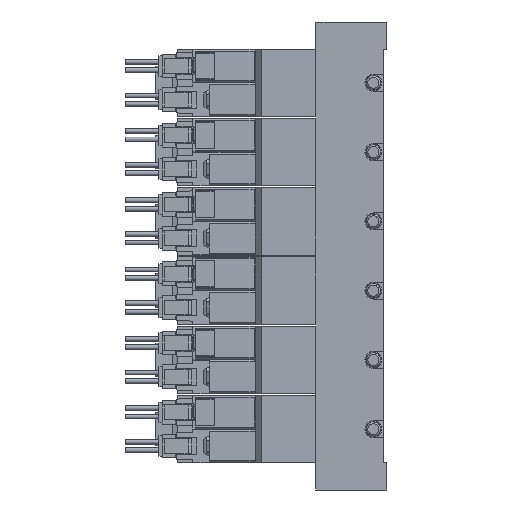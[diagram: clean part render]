
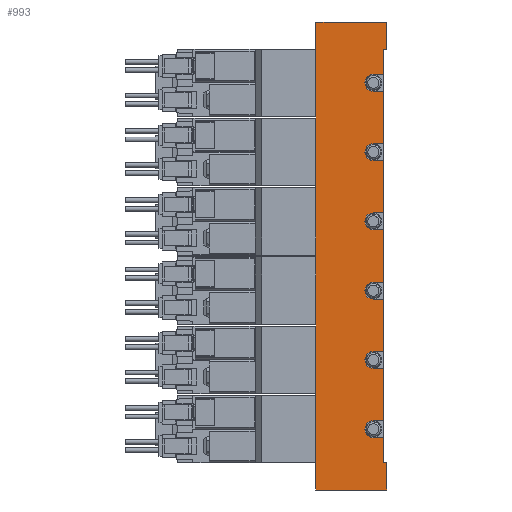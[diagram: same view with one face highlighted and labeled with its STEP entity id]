
A CAD part, left-side view. The second image highlights one B-rep face of the part: STEP entity #993.
In plain terms, the highlighted planar face has unit normal (-1, 0, 0) as drawn and (1, 0, 0) by its records, which use the part's own axes.
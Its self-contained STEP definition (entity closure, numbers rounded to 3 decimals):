
#993=ADVANCED_FACE('',(#2117),#2118,.F.);
#2117=FACE_OUTER_BOUND('',#3242,.T.);
#2118=PLANE('',#3243);
#3242=EDGE_LOOP('',(#7032,#7033,#7034,#7035,#7036,#7037,#7038,#7039,#7040,#7041,#7042,#7043,#7044,#7045,#7046,#7047,#7048,#7049,#7050,#7051,#7052,#7053,#7054,#7055,#7056,#7057,#7058,#7059,#7060,#7061,#7062,#7063));
#3243=AXIS2_PLACEMENT_3D('',#7064,#7065,#7066);
#7032=ORIENTED_EDGE('',*,*,#8250,.T.);
#7033=ORIENTED_EDGE('',*,*,#8092,.T.);
#7034=ORIENTED_EDGE('',*,*,#8156,.F.);
#7035=ORIENTED_EDGE('',*,*,#8101,.F.);
#7036=ORIENTED_EDGE('',*,*,#8247,.T.);
#7037=ORIENTED_EDGE('',*,*,#8254,.T.);
#7038=ORIENTED_EDGE('',*,*,#8198,.T.);
#7039=ORIENTED_EDGE('',*,*,#8050,.F.);
#7040=ORIENTED_EDGE('',*,*,#8245,.F.);
#7041=ORIENTED_EDGE('',*,*,#8115,.F.);
#7042=ORIENTED_EDGE('',*,*,#8197,.T.);
#7043=ORIENTED_EDGE('',*,*,#8160,.F.);
#7044=ORIENTED_EDGE('',*,*,#8204,.F.);
#7045=ORIENTED_EDGE('',*,*,#8176,.F.);
#7046=ORIENTED_EDGE('',*,*,#8195,.T.);
#7047=ORIENTED_EDGE('',*,*,#8239,.F.);
#7048=ORIENTED_EDGE('',*,*,#8226,.F.);
#7049=ORIENTED_EDGE('',*,*,#8201,.F.);
#7050=ORIENTED_EDGE('',*,*,#8192,.T.);
#7051=ORIENTED_EDGE('',*,*,#8137,.F.);
#7052=ORIENTED_EDGE('',*,*,#8181,.F.);
#7053=ORIENTED_EDGE('',*,*,#8253,.F.);
#7054=ORIENTED_EDGE('',*,*,#8189,.T.);
#7055=ORIENTED_EDGE('',*,*,#8132,.F.);
#7056=ORIENTED_EDGE('',*,*,#8251,.F.);
#7057=ORIENTED_EDGE('',*,*,#8144,.F.);
#7058=ORIENTED_EDGE('',*,*,#8187,.T.);
#7059=ORIENTED_EDGE('',*,*,#8211,.F.);
#7060=ORIENTED_EDGE('',*,*,#8105,.F.);
#7061=ORIENTED_EDGE('',*,*,#8224,.F.);
#7062=ORIENTED_EDGE('',*,*,#8184,.T.);
#7063=ORIENTED_EDGE('',*,*,#8214,.T.);
#7064=CARTESIAN_POINT('',(17.5,1.0,69.25));
#7065=DIRECTION('',(-1.0,0.0,0.0));
#7066=DIRECTION('',(0.0,0.0,1.0));
#8050=EDGE_CURVE('',#9894,#9895,#9896,.T.);
#8092=EDGE_CURVE('',#9973,#9974,#9975,.T.);
#8101=EDGE_CURVE('',#9989,#9991,#9992,.T.);
#8105=EDGE_CURVE('',#9997,#9999,#10000,.T.);
#8115=EDGE_CURVE('',#10016,#10017,#10018,.T.);
#8132=EDGE_CURVE('',#10049,#10050,#10051,.T.);
#8137=EDGE_CURVE('',#10059,#10060,#10061,.T.);
#8144=EDGE_CURVE('',#10072,#10073,#10074,.T.);
#8156=EDGE_CURVE('',#9991,#9974,#10095,.T.);
#8160=EDGE_CURVE('',#10102,#10103,#10104,.T.);
#8176=EDGE_CURVE('',#10126,#10127,#10128,.T.);
#8181=EDGE_CURVE('',#10133,#10059,#10135,.T.);
#8184=EDGE_CURVE('',#10141,#10138,#10142,.T.);
#8187=EDGE_CURVE('',#10072,#10144,#10146,.T.);
#8189=EDGE_CURVE('',#10148,#10050,#10149,.T.);
#8192=EDGE_CURVE('',#10153,#10060,#10154,.T.);
#8195=EDGE_CURVE('',#10126,#10156,#10158,.T.);
#8197=EDGE_CURVE('',#10016,#10103,#10160,.T.);
#8198=EDGE_CURVE('',#10161,#9895,#10162,.T.);
#8201=EDGE_CURVE('',#10153,#10166,#10167,.T.);
#8204=EDGE_CURVE('',#10127,#10102,#10171,.T.);
#8211=EDGE_CURVE('',#9999,#10144,#10181,.T.);
#8214=EDGE_CURVE('',#10138,#10183,#10185,.T.);
#8224=EDGE_CURVE('',#10141,#9997,#10201,.T.);
#8226=EDGE_CURVE('',#10166,#10203,#10204,.T.);
#8239=EDGE_CURVE('',#10203,#10156,#10224,.T.);
#8245=EDGE_CURVE('',#10017,#9894,#10232,.T.);
#8247=EDGE_CURVE('',#9989,#10233,#10234,.T.);
#8250=EDGE_CURVE('',#10183,#9973,#10238,.T.);
#8251=EDGE_CURVE('',#10073,#10049,#10239,.T.);
#8253=EDGE_CURVE('',#10148,#10133,#10242,.T.);
#8254=EDGE_CURVE('',#10233,#10161,#10243,.T.);
#9894=VERTEX_POINT('',#12933);
#9895=VERTEX_POINT('',#12934);
#9896=LINE('',#12935,#12936);
#9973=VERTEX_POINT('',#13245);
#9974=VERTEX_POINT('',#13246);
#9975=LINE('',#13247,#13248);
#9989=VERTEX_POINT('',#13269);
#9991=VERTEX_POINT('',#13272);
#9992=LINE('',#13273,#13274);
#9997=VERTEX_POINT('',#13280);
#9999=VERTEX_POINT('',#13283);
#10000=CIRCLE('',#13284,2.5);
#10016=VERTEX_POINT('',#13303);
#10017=VERTEX_POINT('',#13304);
#10018=LINE('',#13305,#13306);
#10049=VERTEX_POINT('',#13343);
#10050=VERTEX_POINT('',#13344);
#10051=LINE('',#13345,#13346);
#10059=VERTEX_POINT('',#13358);
#10060=VERTEX_POINT('',#13359);
#10061=LINE('',#13360,#13361);
#10072=VERTEX_POINT('',#13376);
#10073=VERTEX_POINT('',#13377);
#10074=LINE('',#13378,#13379);
#10095=LINE('',#13405,#13406);
#10102=VERTEX_POINT('',#13413);
#10103=VERTEX_POINT('',#13414);
#10104=LINE('',#13415,#13416);
#10126=VERTEX_POINT('',#13443);
#10127=VERTEX_POINT('',#13444);
#10128=LINE('',#13445,#13446);
#10133=VERTEX_POINT('',#13454);
#10135=CIRCLE('',#13457,2.5);
#10138=VERTEX_POINT('',#13460);
#10141=VERTEX_POINT('',#13464);
#10142=LINE('',#13465,#13466);
#10144=VERTEX_POINT('',#13469);
#10146=LINE('',#13472,#13473);
#10148=VERTEX_POINT('',#13476);
#10149=LINE('',#13477,#13478);
#10153=VERTEX_POINT('',#13484);
#10154=LINE('',#13485,#13486);
#10156=VERTEX_POINT('',#13489);
#10158=LINE('',#13492,#13493);
#10160=LINE('',#13496,#13497);
#10161=VERTEX_POINT('',#13498);
#10162=LINE('',#13499,#13500);
#10166=VERTEX_POINT('',#13506);
#10167=LINE('',#13507,#13508);
#10171=CIRCLE('',#13513,2.5);
#10181=LINE('',#13526,#13527);
#10183=VERTEX_POINT('',#13530);
#10185=LINE('',#13533,#13534);
#10201=LINE('',#13553,#13554);
#10203=VERTEX_POINT('',#13556);
#10204=CIRCLE('',#13557,2.5);
#10224=LINE('',#13580,#13581);
#10232=CIRCLE('',#13591,2.5);
#10233=VERTEX_POINT('',#13592);
#10234=LINE('',#13593,#13594);
#10238=LINE('',#13599,#13600);
#10239=CIRCLE('',#13601,2.5);
#10242=LINE('',#13604,#13605);
#10243=LINE('',#13606,#13607);
#12933=CARTESIAN_POINT('',(17.5,4.0,53.75));
#12934=CARTESIAN_POINT('',(17.5,1.0,53.75));
#12935=CARTESIAN_POINT('',(17.5,1.0,53.75));
#12936=VECTOR('',#14809,1.0);
#13245=CARTESIAN_POINT('',(17.5,0.0,-69.25));
#13246=CARTESIAN_POINT('',(17.5,21.0,-69.25));
#13247=CARTESIAN_POINT('',(17.5,1.0,-69.25));
#13248=VECTOR('',#14888,1.0);
#13269=CARTESIAN_POINT('',(17.5,0.0,69.25));
#13272=CARTESIAN_POINT('',(17.5,21.0,69.25));
#13273=CARTESIAN_POINT('',(17.5,1.0,69.25));
#13274=VECTOR('',#14897,1.0);
#13280=CARTESIAN_POINT('',(17.5,4.0,-53.75));
#13283=CARTESIAN_POINT('',(17.5,4.0,-48.75));
#13284=AXIS2_PLACEMENT_3D('',#14903,#14904,#14905);
#13303=CARTESIAN_POINT('',(17.5,1.0,48.75));
#13304=CARTESIAN_POINT('',(17.5,4.0,48.75));
#13305=CARTESIAN_POINT('',(17.5,1.0,48.75));
#13306=VECTOR('',#14927,1.0);
#13343=CARTESIAN_POINT('',(17.5,4.0,-28.25));
#13344=CARTESIAN_POINT('',(17.5,1.0,-28.25));
#13345=CARTESIAN_POINT('',(17.5,1.0,-28.25));
#13346=VECTOR('',#14964,1.0);
#13358=CARTESIAN_POINT('',(17.5,4.0,-7.75));
#13359=CARTESIAN_POINT('',(17.5,1.0,-7.75));
#13360=CARTESIAN_POINT('',(17.5,1.0,-7.75));
#13361=VECTOR('',#14969,1.0);
#13376=CARTESIAN_POINT('',(17.5,1.0,-33.25));
#13377=CARTESIAN_POINT('',(17.5,4.0,-33.25));
#13378=CARTESIAN_POINT('',(17.5,1.0,-33.25));
#13379=VECTOR('',#14980,1.0);
#13405=CARTESIAN_POINT('',(17.5,21.0,69.25));
#13406=VECTOR('',#15004,1.0);
#13413=CARTESIAN_POINT('',(17.5,4.0,33.25));
#13414=CARTESIAN_POINT('',(17.5,1.0,33.25));
#13415=CARTESIAN_POINT('',(17.5,1.0,33.25));
#13416=VECTOR('',#15014,1.0);
#13443=CARTESIAN_POINT('',(17.5,1.0,28.25));
#13444=CARTESIAN_POINT('',(17.5,4.0,28.25));
#13445=CARTESIAN_POINT('',(17.5,1.0,28.25));
#13446=VECTOR('',#15047,1.0);
#13454=CARTESIAN_POINT('',(17.5,4.0,-12.75));
#13457=AXIS2_PLACEMENT_3D('',#15052,#15053,#15054);
#13460=CARTESIAN_POINT('',(17.5,1.0,-61.25));
#13464=CARTESIAN_POINT('',(17.5,1.0,-53.75));
#13465=CARTESIAN_POINT('',(17.5,1.0,69.25));
#13466=VECTOR('',#15059,1.0);
#13469=CARTESIAN_POINT('',(17.5,1.0,-48.75));
#13472=CARTESIAN_POINT('',(17.5,1.0,69.25));
#13473=VECTOR('',#15062,1.0);
#13476=CARTESIAN_POINT('',(17.5,1.0,-12.75));
#13477=CARTESIAN_POINT('',(17.5,1.0,69.25));
#13478=VECTOR('',#15064,1.0);
#13484=CARTESIAN_POINT('',(17.5,1.0,7.75));
#13485=CARTESIAN_POINT('',(17.5,1.0,69.25));
#13486=VECTOR('',#15067,1.0);
#13489=CARTESIAN_POINT('',(17.5,1.0,12.75));
#13492=CARTESIAN_POINT('',(17.5,1.0,69.25));
#13493=VECTOR('',#15070,1.0);
#13496=CARTESIAN_POINT('',(17.5,1.0,69.25));
#13497=VECTOR('',#15072,1.0);
#13498=CARTESIAN_POINT('',(17.5,1.0,61.25));
#13499=CARTESIAN_POINT('',(17.5,1.0,69.25));
#13500=VECTOR('',#15073,1.0);
#13506=CARTESIAN_POINT('',(17.5,4.0,7.75));
#13507=CARTESIAN_POINT('',(17.5,1.0,7.75));
#13508=VECTOR('',#15076,1.0);
#13513=AXIS2_PLACEMENT_3D('',#15081,#15082,#15083);
#13526=CARTESIAN_POINT('',(17.5,1.0,-48.75));
#13527=VECTOR('',#15096,1.0);
#13530=CARTESIAN_POINT('',(17.5,0.0,-61.25));
#13533=CARTESIAN_POINT('',(17.5,4.0,-61.25));
#13534=VECTOR('',#15099,1.0);
#13553=CARTESIAN_POINT('',(17.5,1.0,-53.75));
#13554=VECTOR('',#15118,1.0);
#13556=CARTESIAN_POINT('',(17.5,4.0,12.75));
#13557=AXIS2_PLACEMENT_3D('',#15122,#15123,#15124);
#13580=CARTESIAN_POINT('',(17.5,1.0,12.75));
#13581=VECTOR('',#15152,1.0);
#13591=AXIS2_PLACEMENT_3D('',#15164,#15165,#15166);
#13592=CARTESIAN_POINT('',(17.5,0.0,61.25));
#13593=CARTESIAN_POINT('',(17.5,0.0,69.25));
#13594=VECTOR('',#15167,1.0);
#13599=CARTESIAN_POINT('',(17.5,0.0,-61.25));
#13600=VECTOR('',#15172,1.0);
#13601=AXIS2_PLACEMENT_3D('',#15173,#15174,#15175);
#13604=CARTESIAN_POINT('',(17.5,1.0,-12.75));
#13605=VECTOR('',#15179,1.0);
#13606=CARTESIAN_POINT('',(17.5,0.0,61.25));
#13607=VECTOR('',#15180,1.0);
#14809=DIRECTION('',(0.0,-1.0,0.0));
#14888=DIRECTION('',(0.0,1.0,0.0));
#14897=DIRECTION('',(0.0,1.0,0.0));
#14903=CARTESIAN_POINT('',(17.5,4.0,-51.25));
#14904=DIRECTION('',(1.0,0.0,-0.0));
#14905=DIRECTION('',(0.0,0.0,1.0));
#14927=DIRECTION('',(0.0,1.0,0.0));
#14964=DIRECTION('',(0.0,-1.0,0.0));
#14969=DIRECTION('',(0.0,-1.0,0.0));
#14980=DIRECTION('',(0.0,1.0,0.0));
#15004=DIRECTION('',(0.0,0.0,-1.0));
#15014=DIRECTION('',(0.0,-1.0,0.0));
#15047=DIRECTION('',(0.0,1.0,0.0));
#15052=CARTESIAN_POINT('',(17.5,4.0,-10.25));
#15053=DIRECTION('',(1.0,0.0,-0.0));
#15054=DIRECTION('',(0.0,0.0,1.0));
#15059=DIRECTION('',(0.0,0.0,-1.0));
#15062=DIRECTION('',(0.0,0.0,-1.0));
#15064=DIRECTION('',(0.0,0.0,-1.0));
#15067=DIRECTION('',(0.0,0.0,-1.0));
#15070=DIRECTION('',(0.0,0.0,-1.0));
#15072=DIRECTION('',(0.0,0.0,-1.0));
#15073=DIRECTION('',(0.0,0.0,-1.0));
#15076=DIRECTION('',(0.0,1.0,0.0));
#15081=CARTESIAN_POINT('',(17.5,4.0,30.75));
#15082=DIRECTION('',(1.0,0.0,-0.0));
#15083=DIRECTION('',(0.0,0.0,1.0));
#15096=DIRECTION('',(0.0,-1.0,0.0));
#15099=DIRECTION('',(0.0,-1.0,0.0));
#15118=DIRECTION('',(0.0,1.0,0.0));
#15122=CARTESIAN_POINT('',(17.5,4.0,10.25));
#15123=DIRECTION('',(1.0,0.0,-0.0));
#15124=DIRECTION('',(0.0,0.0,1.0));
#15152=DIRECTION('',(0.0,-1.0,0.0));
#15164=CARTESIAN_POINT('',(17.5,4.0,51.25));
#15165=DIRECTION('',(1.0,0.0,-0.0));
#15166=DIRECTION('',(0.0,0.0,1.0));
#15167=DIRECTION('',(0.0,0.0,-1.0));
#15172=DIRECTION('',(0.0,0.0,-1.0));
#15173=CARTESIAN_POINT('',(17.5,4.0,-30.75));
#15174=DIRECTION('',(1.0,0.0,-0.0));
#15175=DIRECTION('',(0.0,0.0,1.0));
#15179=DIRECTION('',(0.0,1.0,0.0));
#15180=DIRECTION('',(0.0,1.0,0.0));
